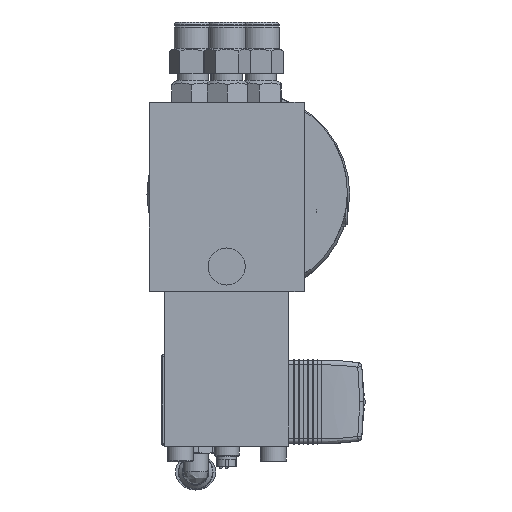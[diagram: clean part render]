
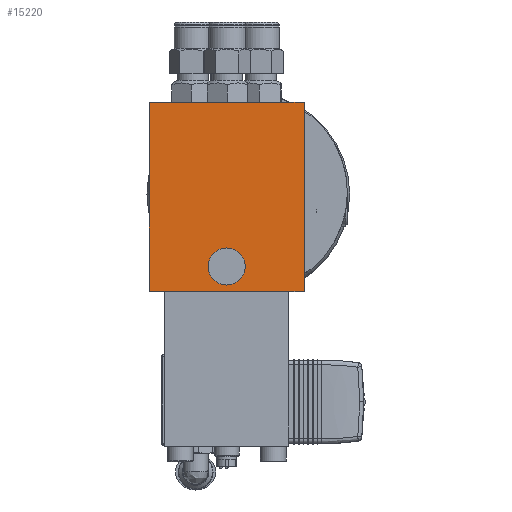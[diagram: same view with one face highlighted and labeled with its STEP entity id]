
A CAD part, top view. The second image highlights one B-rep face of the part: STEP entity #15220.
In plain terms, the highlighted planar face has unit normal (0, 0, 1) as drawn and (0, 1, 0) by its records, which use the part's own axes.
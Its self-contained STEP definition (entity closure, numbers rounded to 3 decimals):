
#1367 = CARTESIAN_POINT ( 'NONE',  ( -22.5, 25., -6. ) ) ;
#1439 = AXIS2_PLACEMENT_3D ( 'NONE', #4560, #30327, #39136 ) ;
#1830 = LINE ( 'NONE', #14100, #36064 ) ;
#3128 = LINE ( 'NONE', #37514, #13482 ) ;
#3449 = LINE ( 'NONE', #39044, #24366 ) ;
#4412 = EDGE_CURVE ( 'NONE', #16412, #8258, #14151, .T. ) ;
#4560 = CARTESIAN_POINT ( 'NONE',  ( -22.5, 25., 0. ) ) ;
#5023 = ORIENTED_EDGE ( 'NONE', *, *, #34638, .F. ) ;
#6617 = CIRCLE ( 'NONE', #1439, 6. ) ;
#7704 = VERTEX_POINT ( 'NONE', #1367 ) ;
#8258 = VERTEX_POINT ( 'NONE', #25590 ) ;
#8994 = EDGE_CURVE ( 'NONE', #16412, #25558, #3128, .T. ) ;
#9278 = EDGE_LOOP ( 'NONE', ( #5023 ) ) ;
#12288 = AXIS2_PLACEMENT_3D ( 'NONE', #31864, #13257, #16531 ) ;
#12689 = CARTESIAN_POINT ( 'NONE',  ( -30.5, 25., 25. ) ) ;
#13257 = DIRECTION ( 'NONE',  ( 0., -1., 0. ) ) ;
#13482 = VECTOR ( 'NONE', #22174, 1000. ) ;
#14100 = CARTESIAN_POINT ( 'NONE',  ( -30.5, 25., 25. ) ) ;
#14151 = LINE ( 'NONE', #38916, #37735 ) ;
#15220 = ADVANCED_FACE ( 'NONE', ( #32068, #25541 ), #16330, .F. ) ;
#16330 = PLANE ( 'NONE',  #12288 ) ;
#16412 = VERTEX_POINT ( 'NONE', #37118 ) ;
#16531 = DIRECTION ( 'NONE',  ( 0., 0., -1. ) ) ;
#22174 = DIRECTION ( 'NONE',  ( -1., 0., 0. ) ) ;
#22413 = DIRECTION ( 'NONE',  ( 0., 0., -1. ) ) ;
#23377 = EDGE_CURVE ( 'NONE', #25558, #38464, #1830, .T. ) ;
#23900 = DIRECTION ( 'NONE',  ( -1., 0., 0. ) ) ;
#24366 = VECTOR ( 'NONE', #23900, 1000. ) ;
#24866 = ORIENTED_EDGE ( 'NONE', *, *, #23377, .F. ) ;
#25541 = FACE_OUTER_BOUND ( 'NONE', #26484, .T. ) ;
#25558 = VERTEX_POINT ( 'NONE', #12689 ) ;
#25590 = CARTESIAN_POINT ( 'NONE',  ( 30.5, 25., -25. ) ) ;
#26484 = EDGE_LOOP ( 'NONE', ( #28684, #24866, #35934, #30665 ) ) ;
#28684 = ORIENTED_EDGE ( 'NONE', *, *, #36007, .T. ) ;
#30327 = DIRECTION ( 'NONE',  ( 0., 1., 0. ) ) ;
#30665 = ORIENTED_EDGE ( 'NONE', *, *, #4412, .T. ) ;
#31864 = CARTESIAN_POINT ( 'NONE',  ( -30.5, 25., 25. ) ) ;
#32068 = FACE_BOUND ( 'NONE', #9278, .T. ) ;
#34638 = EDGE_CURVE ( 'NONE', #7704, #7704, #6617, .T. ) ;
#35934 = ORIENTED_EDGE ( 'NONE', *, *, #8994, .F. ) ;
#36007 = EDGE_CURVE ( 'NONE', #8258, #38464, #3449, .T. ) ;
#36064 = VECTOR ( 'NONE', #38867, 1000. ) ;
#36339 = CARTESIAN_POINT ( 'NONE',  ( -30.5, 25., -25. ) ) ;
#37118 = CARTESIAN_POINT ( 'NONE',  ( 30.5, 25., 25. ) ) ;
#37514 = CARTESIAN_POINT ( 'NONE',  ( -30.5, 25., 25. ) ) ;
#37735 = VECTOR ( 'NONE', #22413, 1000. ) ;
#38464 = VERTEX_POINT ( 'NONE', #36339 ) ;
#38867 = DIRECTION ( 'NONE',  ( 0., 0., -1. ) ) ;
#38916 = CARTESIAN_POINT ( 'NONE',  ( 30.5, 25., 25. ) ) ;
#39044 = CARTESIAN_POINT ( 'NONE',  ( -30.5, 25., -25. ) ) ;
#39136 = DIRECTION ( 'NONE',  ( 0., 0., -1. ) ) ;
